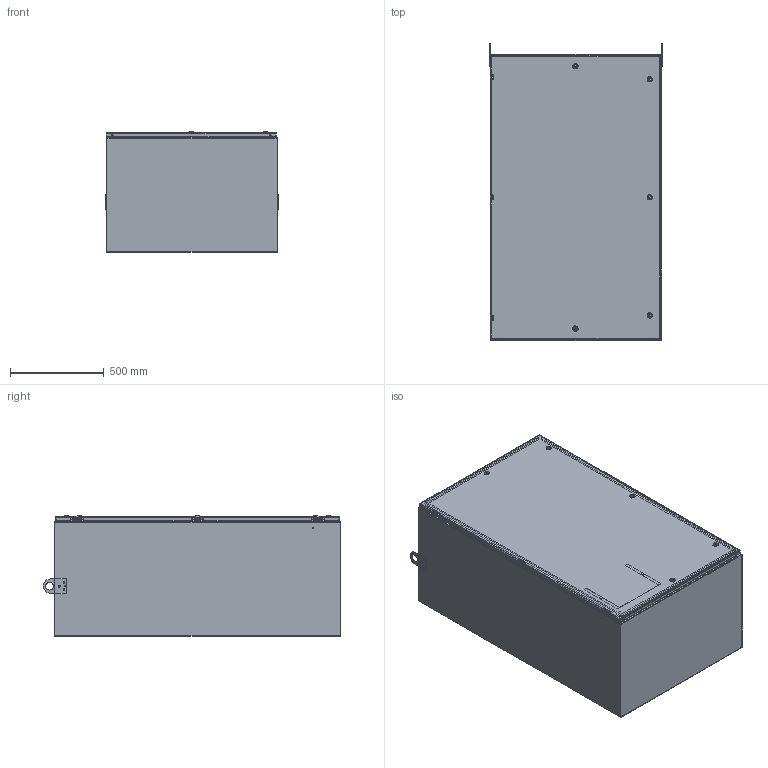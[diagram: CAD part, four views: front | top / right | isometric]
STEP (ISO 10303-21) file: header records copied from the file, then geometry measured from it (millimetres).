
FILE_DESCRIPTION((''),'2;1');
FILE_NAME('MODEL-305_ASM','2025-02-21T08:27:29',('joshi'),('SAGINAW CONTROL & ENGINEERING'),'CREO PARAMETRIC BY PTC INC, 2021284','CREO PARAMETRIC BY PTC INC, 2021284','');
FILE_SCHEMA(('AUTOMOTIVE_DESIGN { 1 0 10303 214 1 1 1 1 }'));
Length unit declared in the file: inch
Products named in the file (35): MODEL-305-BDY; MODEL-305-TP; MODEL-305-BTM; MODEL-305-DR; 100837; 100882; 111267; 100794_SHAFT; 100794_INSERT; 100794_CAM; 100794_NUT; 100794_SCREW; 100794_ASM; MODEL-305-DOOR-GASKET; 128257; 128257_ASM; 126393; 102483; 101226; 101376; 102140; 132757; MODEL-305-DOOR-ASSY_ASM; 101653; 122193; SUBPANEL; 100904; SUBPANEL-SUBASSEMBLY_ASM; 117673; 100059; 117673_ASM; 102172; 100921; 127522_ASM; MODEL-305_ASM
Assembly tree (89 placements, depth 4):
  MODEL-305_ASM
    MODEL-305-BDY
    MODEL-305-TP
    MODEL-305-BTM
    MODEL-305-DOOR-ASSY_ASM
      MODEL-305-DR
      100837  x3
      100882  x2
      111267
      100794_ASM  x5
        100794_SHAFT
        100794_INSERT
        100794_CAM
        100794_NUT
        100794_SCREW
      MODEL-305-DOOR-GASKET
      128257_ASM  x3
        128257
      126393  x3
      102483  x9
      101226  x3
      101376  x3
      102140  x3
      132757  x3
    100837
    101653  x8
    122193
    SUBPANEL-SUBASSEMBLY_ASM
      SUBPANEL
      100904  x8
    127522_ASM
      117673_ASM  x2
        117673
        100059
      102172  x6
      100921  x6
Bounding box: 921.05 x 1582.67 x 641.46 mm (x, y, z)
Volume: 17596473 mm3; surface area: 15212642.1 mm2
Topology: 104 solids, 104 shells, 5612 faces, 13903 edges, 8660 vertices
Faces by surface type: plane 2488, cylinder 1639, bspline 640, torus 437, cone 256, sphere 152
Entity records: 94491 total; most frequent: CARTESIAN_POINT 26731, ORIENTED_EDGE 9672, DIRECTION 9423, PRESENTATION_STYLE_ASSIGNMENT 5025, EDGE_CURVE 4836, STYLED_ITEM 4750, CURVE_STYLE 4650, AXIS2_PLACEMENT_3D 3500
